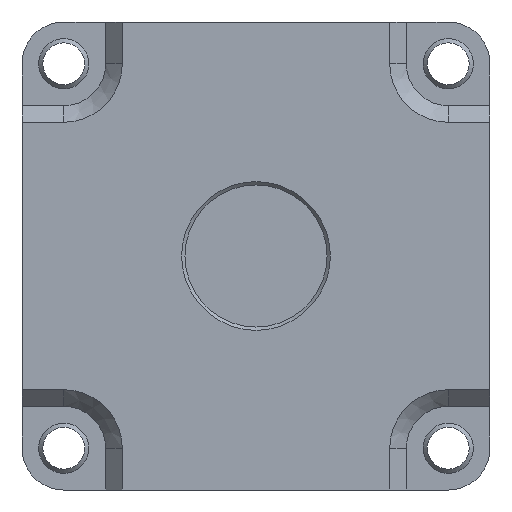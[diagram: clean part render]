
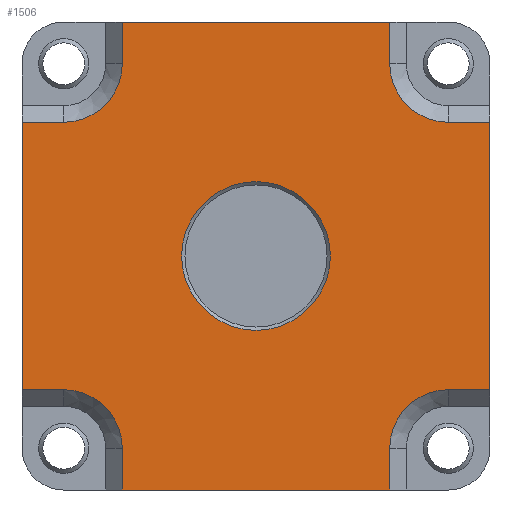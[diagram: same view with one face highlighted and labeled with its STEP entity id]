
A CAD part, front view. The second image highlights one B-rep face of the part: STEP entity #1506.
In plain terms, the highlighted planar face has unit normal (0, -1, 0).
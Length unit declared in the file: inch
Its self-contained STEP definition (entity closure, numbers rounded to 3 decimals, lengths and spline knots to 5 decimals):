
#16=FACE_BOUND('',#473,.T.);
#82=LINE('',#2296,#218);
#91=LINE('',#2316,#227);
#101=LINE('',#2350,#237);
#108=LINE('',#2363,#244);
#118=LINE('',#2397,#254);
#125=LINE('',#2410,#261);
#133=LINE('',#2434,#269);
#137=LINE('',#2447,#273);
#138=LINE('',#2449,#274);
#139=LINE('',#2450,#275);
#140=LINE('',#2451,#276);
#141=LINE('',#2452,#277);
#218=VECTOR('',#1837,0.09843);
#227=VECTOR('',#1856,0.09843);
#237=VECTOR('',#1886,0.09843);
#244=VECTOR('',#1901,0.09843);
#254=VECTOR('',#1931,0.09843);
#261=VECTOR('',#1946,0.09843);
#269=VECTOR('',#1968,0.09843);
#273=VECTOR('',#1984,0.62992);
#274=VECTOR('',#1985,0.09843);
#275=VECTOR('',#1986,0.62992);
#276=VECTOR('',#1987,0.62992);
#277=VECTOR('',#1988,0.62992);
#385=FACE_OUTER_BOUND('',#472,.T.);
#472=EDGE_LOOP('',(#1126,#1127,#1128,#1129,#1130,#1131,#1132,#1133,#1134,
#1135,#1136,#1137,#1138,#1139,#1140,#1141));
#473=EDGE_LOOP('',(#1142));
#542=CIRCLE('',#1613,0.1378);
#549=CIRCLE('',#1628,0.1378);
#555=CIRCLE('',#1642,0.1378);
#558=CIRCLE('',#1653,0.1378);
#561=CIRCLE('',#1659,0.1752);
#628=VERTEX_POINT('',#2283);
#631=VERTEX_POINT('',#2288);
#633=VERTEX_POINT('',#2294);
#639=VERTEX_POINT('',#2314);
#648=VERTEX_POINT('',#2337);
#651=VERTEX_POINT('',#2342);
#653=VERTEX_POINT('',#2348);
#655=VERTEX_POINT('',#2361);
#664=VERTEX_POINT('',#2384);
#667=VERTEX_POINT('',#2389);
#669=VERTEX_POINT('',#2395);
#671=VERTEX_POINT('',#2408);
#678=VERTEX_POINT('',#2427);
#679=VERTEX_POINT('',#2429);
#680=VERTEX_POINT('',#2433);
#683=VERTEX_POINT('',#2443);
#684=VERTEX_POINT('',#2448);
#781=EDGE_CURVE('',#628,#631,#542,.T.);
#784=EDGE_CURVE('',#631,#633,#82,.T.);
#794=EDGE_CURVE('',#639,#628,#91,.T.);
#807=EDGE_CURVE('',#648,#651,#549,.T.);
#810=EDGE_CURVE('',#651,#653,#101,.T.);
#817=EDGE_CURVE('',#655,#648,#108,.T.);
#830=EDGE_CURVE('',#664,#667,#555,.T.);
#833=EDGE_CURVE('',#667,#669,#118,.T.);
#840=EDGE_CURVE('',#671,#664,#125,.T.);
#849=EDGE_CURVE('',#679,#678,#558,.T.);
#851=EDGE_CURVE('',#680,#679,#133,.T.);
#857=EDGE_CURVE('',#683,#683,#561,.T.);
#858=EDGE_CURVE('',#633,#680,#137,.T.);
#859=EDGE_CURVE('',#678,#684,#138,.T.);
#860=EDGE_CURVE('',#684,#671,#139,.T.);
#861=EDGE_CURVE('',#669,#655,#140,.T.);
#862=EDGE_CURVE('',#653,#639,#141,.T.);
#1126=ORIENTED_EDGE('',*,*,#858,.T.);
#1127=ORIENTED_EDGE('',*,*,#851,.T.);
#1128=ORIENTED_EDGE('',*,*,#849,.T.);
#1129=ORIENTED_EDGE('',*,*,#859,.T.);
#1130=ORIENTED_EDGE('',*,*,#860,.T.);
#1131=ORIENTED_EDGE('',*,*,#840,.T.);
#1132=ORIENTED_EDGE('',*,*,#830,.T.);
#1133=ORIENTED_EDGE('',*,*,#833,.T.);
#1134=ORIENTED_EDGE('',*,*,#861,.T.);
#1135=ORIENTED_EDGE('',*,*,#817,.T.);
#1136=ORIENTED_EDGE('',*,*,#807,.T.);
#1137=ORIENTED_EDGE('',*,*,#810,.T.);
#1138=ORIENTED_EDGE('',*,*,#862,.T.);
#1139=ORIENTED_EDGE('',*,*,#794,.T.);
#1140=ORIENTED_EDGE('',*,*,#781,.T.);
#1141=ORIENTED_EDGE('',*,*,#784,.T.);
#1142=ORIENTED_EDGE('',*,*,#857,.T.);
#1363=PLANE('',#1660);
#1506=ADVANCED_FACE('',(#385,#16),#1363,.F.);
#1613=AXIS2_PLACEMENT_3D('',#2290,#1831,#1832);
#1628=AXIS2_PLACEMENT_3D('',#2344,#1880,#1881);
#1642=AXIS2_PLACEMENT_3D('',#2391,#1925,#1926);
#1653=AXIS2_PLACEMENT_3D('',#2430,#1963,#1964);
#1659=AXIS2_PLACEMENT_3D('',#2445,#1980,#1981);
#1660=AXIS2_PLACEMENT_3D('',#2446,#1982,#1983);
#1831=DIRECTION('center_axis',(0.,1.,0.));
#1832=DIRECTION('ref_axis',(-1.,0.,0.));
#1837=DIRECTION('',(1.,0.,0.));
#1856=DIRECTION('',(0.,0.,1.));
#1880=DIRECTION('center_axis',(0.,1.,0.));
#1881=DIRECTION('ref_axis',(-1.,0.,0.));
#1886=DIRECTION('',(0.,0.,-1.));
#1901=DIRECTION('',(1.,0.,0.));
#1925=DIRECTION('center_axis',(0.,1.,0.));
#1926=DIRECTION('ref_axis',(-1.,0.,0.));
#1931=DIRECTION('',(-1.,0.,0.));
#1946=DIRECTION('',(0.,0.,-1.));
#1963=DIRECTION('center_axis',(0.,1.,0.));
#1964=DIRECTION('ref_axis',(-1.,0.,0.));
#1968=DIRECTION('',(-1.,0.,0.));
#1980=DIRECTION('center_axis',(0.,1.,0.));
#1981=DIRECTION('ref_axis',(-1.,0.,0.));
#1982=DIRECTION('center_axis',(0.,1.,0.));
#1983=DIRECTION('ref_axis',(0.,0.,1.));
#1984=DIRECTION('',(0.,0.,1.));
#1985=DIRECTION('',(0.,0.,1.));
#1986=DIRECTION('',(-1.,0.,0.));
#1987=DIRECTION('',(0.,0.,-1.));
#1988=DIRECTION('',(1.,0.,0.));
#2283=CARTESIAN_POINT('',(-1.03986,0.41485,-0.74253));
#2288=CARTESIAN_POINT('',(-0.90206,0.41485,-0.60473));
#2290=CARTESIAN_POINT('Origin',(-0.90206,0.41485,-0.74253));
#2294=CARTESIAN_POINT('',(-0.80364,0.41485,-0.60473));
#2296=CARTESIAN_POINT('',(-0.90206,0.41485,-0.60473));
#2314=CARTESIAN_POINT('',(-1.03986,0.41485,-0.84095));
#2316=CARTESIAN_POINT('',(-1.03986,0.41485,-0.84095));
#2337=CARTESIAN_POINT('',(-1.80758,0.41485,-0.60473));
#2342=CARTESIAN_POINT('',(-1.66978,0.41485,-0.74253));
#2344=CARTESIAN_POINT('Origin',(-1.80758,0.41485,-0.74253));
#2348=CARTESIAN_POINT('',(-1.66978,0.41485,-0.84095));
#2350=CARTESIAN_POINT('',(-1.66978,0.41485,-0.74253));
#2361=CARTESIAN_POINT('',(-1.906,0.41485,-0.60473));
#2363=CARTESIAN_POINT('',(-1.906,0.41485,-0.60473));
#2384=CARTESIAN_POINT('',(-1.66978,0.41485,0.16298));
#2389=CARTESIAN_POINT('',(-1.80758,0.41485,0.02519));
#2391=CARTESIAN_POINT('Origin',(-1.80758,0.41485,0.16298));
#2395=CARTESIAN_POINT('',(-1.906,0.41485,0.02519));
#2397=CARTESIAN_POINT('',(-1.80758,0.41485,0.02519));
#2408=CARTESIAN_POINT('',(-1.66978,0.41485,0.26141));
#2410=CARTESIAN_POINT('',(-1.66978,0.41485,0.26141));
#2427=CARTESIAN_POINT('',(-1.03986,0.41485,0.16298));
#2429=CARTESIAN_POINT('',(-0.90206,0.41485,0.02519));
#2430=CARTESIAN_POINT('Origin',(-0.90206,0.41485,0.16298));
#2433=CARTESIAN_POINT('',(-0.80364,0.41485,0.02519));
#2434=CARTESIAN_POINT('',(-0.80364,0.41485,0.02519));
#2443=CARTESIAN_POINT('',(-1.53002,0.41485,-0.28977));
#2445=CARTESIAN_POINT('Origin',(-1.35482,0.41485,-0.28977));
#2446=CARTESIAN_POINT('Origin',(-0.80364,0.41485,-0.84095));
#2447=CARTESIAN_POINT('',(-0.80364,0.41485,-0.60473));
#2448=CARTESIAN_POINT('',(-1.03986,0.41485,0.26141));
#2449=CARTESIAN_POINT('',(-1.03986,0.41485,0.16298));
#2450=CARTESIAN_POINT('',(-1.03986,0.41485,0.26141));
#2451=CARTESIAN_POINT('',(-1.906,0.41485,0.02519));
#2452=CARTESIAN_POINT('',(-1.66978,0.41485,-0.84095));
